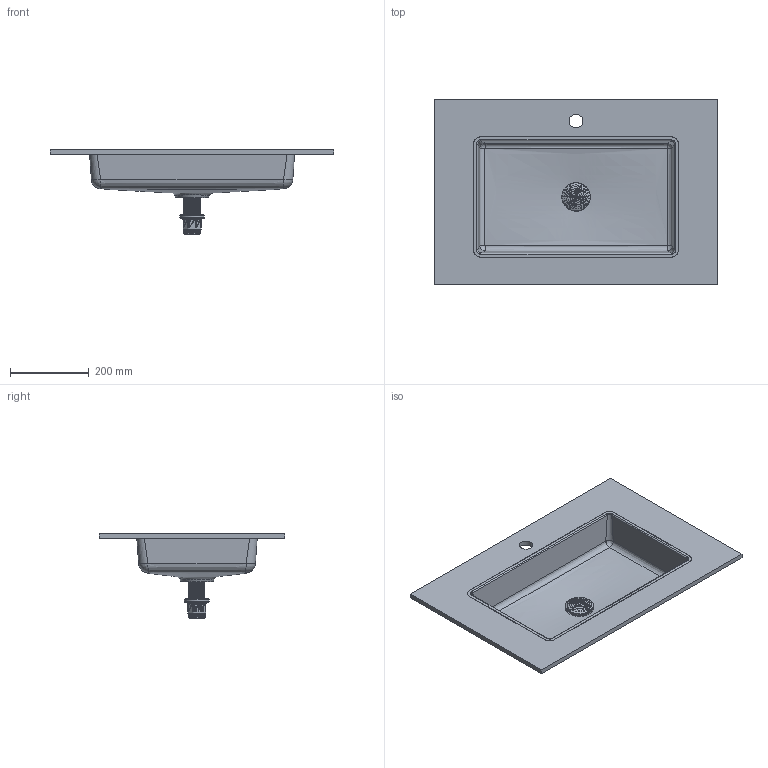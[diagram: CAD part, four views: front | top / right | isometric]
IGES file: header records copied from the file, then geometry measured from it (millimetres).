
Start section: Data from Parasolid IGES Translator 19.0.9, Copyright(c) 2006 Siemens PL M Software. All Rights Reserved.
Global section: file name: noorth-top-H 1,2 D 47,3 W 72_6526.igs; native system: By Siemens PLM Incorporated; preprocessor: XPlus GENERIC/IGES 19.0.9; author: Noname; organization: Noname; date: 20200603.084552; units: metre
Bounding box: 720 x 472 x 215.1 mm (x, y, z)
Volume: 5227359.8 mm3; surface area: 1043892.3 mm2
Topology: 2 solids, 2 shells, 11691 faces, 35033 edges, 34959 vertices
Faces by surface type: extrusion 11618, bspline 40, plane 24, cylinder 7, cone 2
Full cylindrical faces by diameter (mm): 34.9 x1, 45 x1, 46.029 x1
